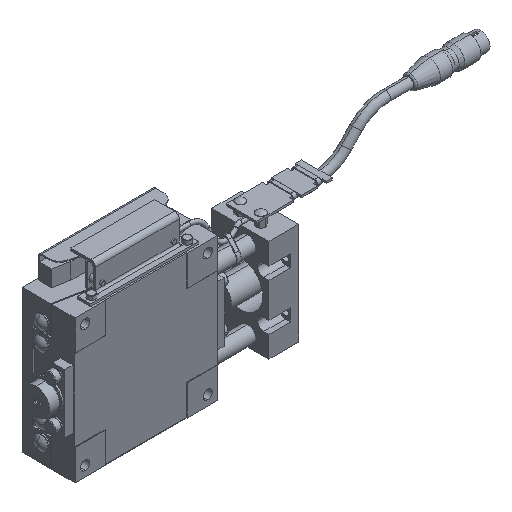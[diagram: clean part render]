
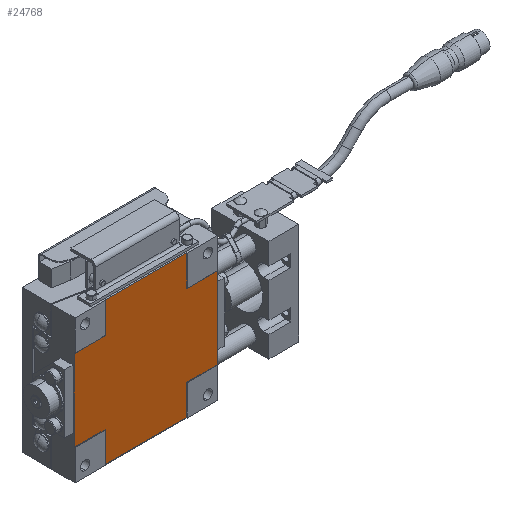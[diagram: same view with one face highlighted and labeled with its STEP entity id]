
A CAD part, isometric view. The second image highlights one B-rep face of the part: STEP entity #24768.
In plain terms, the highlighted planar face has unit normal (0, -1, 0).
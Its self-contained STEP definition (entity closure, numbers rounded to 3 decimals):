
#880 = CARTESIAN_POINT ( 'NONE',  ( 35., 0.3, 20. ) ) ;
#1693 = LINE ( 'NONE', #7282, #13415 ) ;
#1903 = DIRECTION ( 'NONE',  ( 1., 0., 0. ) ) ;
#2558 = CARTESIAN_POINT ( 'NONE',  ( -20., 0.3, 20. ) ) ;
#2755 = EDGE_CURVE ( 'NONE', #10446, #11681, #38761, .T. ) ;
#2860 = LINE ( 'NONE', #34392, #20739 ) ;
#2873 = VERTEX_POINT ( 'NONE', #37952 ) ;
#2939 = ORIENTED_EDGE ( 'NONE', *, *, #33166, .T. ) ;
#4046 = VERTEX_POINT ( 'NONE', #36468 ) ;
#4088 = ORIENTED_EDGE ( 'NONE', *, *, #24600, .T. ) ;
#4447 = CARTESIAN_POINT ( 'NONE',  ( -20., 0.3, 20. ) ) ;
#4804 = VECTOR ( 'NONE', #1903, 1000. ) ;
#6006 = ORIENTED_EDGE ( 'NONE', *, *, #7018, .T. ) ;
#6186 = LINE ( 'NONE', #12861, #33899 ) ;
#7018 = EDGE_CURVE ( 'NONE', #34935, #4046, #21432, .T. ) ;
#7282 = CARTESIAN_POINT ( 'NONE',  ( -35., 0.3, 20. ) ) ;
#8276 = EDGE_CURVE ( 'NONE', #16073, #34935, #9637, .T. ) ;
#8323 = CARTESIAN_POINT ( 'NONE',  ( 0., 0.3, 0. ) ) ;
#8641 = CARTESIAN_POINT ( 'NONE',  ( 20., 0.3, 20. ) ) ;
#9018 = EDGE_LOOP ( 'NONE', ( #2939, #38856, #6006, #13836, #36470, #35015, #35254, #15967, #14333, #38074, #4088, #37273 ) ) ;
#9335 = EDGE_CURVE ( 'NONE', #17989, #37971, #36790, .T. ) ;
#9637 = LINE ( 'NONE', #36717, #21823 ) ;
#9943 = EDGE_CURVE ( 'NONE', #4046, #20136, #32467, .T. ) ;
#10020 = DIRECTION ( 'NONE',  ( -1., 0., 0. ) ) ;
#10446 = VERTEX_POINT ( 'NONE', #38015 ) ;
#10640 = DIRECTION ( 'NONE',  ( 0., 0., -1. ) ) ;
#10866 = VECTOR ( 'NONE', #32486, 1000. ) ;
#11061 = CARTESIAN_POINT ( 'NONE',  ( -35., 0.3, 20. ) ) ;
#11633 = LINE ( 'NONE', #37300, #34669 ) ;
#11681 = VERTEX_POINT ( 'NONE', #2558 ) ;
#11835 = VECTOR ( 'NONE', #17188, 1000. ) ;
#12494 = VERTEX_POINT ( 'NONE', #38173 ) ;
#12790 = DIRECTION ( 'NONE',  ( 0., 0., 1. ) ) ;
#12861 = CARTESIAN_POINT ( 'NONE',  ( -20., 0.3, 35. ) ) ;
#13415 = VECTOR ( 'NONE', #28004, 1000. ) ;
#13836 = ORIENTED_EDGE ( 'NONE', *, *, #9943, .T. ) ;
#14333 = ORIENTED_EDGE ( 'NONE', *, *, #30205, .T. ) ;
#15967 = ORIENTED_EDGE ( 'NONE', *, *, #19028, .T. ) ;
#16073 = VERTEX_POINT ( 'NONE', #24379 ) ;
#16312 = DIRECTION ( 'NONE',  ( 1., 0., 0. ) ) ;
#17188 = DIRECTION ( 'NONE',  ( 0., 0., 1. ) ) ;
#17203 = CARTESIAN_POINT ( 'NONE',  ( -20., 0.3, -35. ) ) ;
#17396 = VERTEX_POINT ( 'NONE', #17203 ) ;
#17677 = VECTOR ( 'NONE', #21064, 1000. ) ;
#17989 = VERTEX_POINT ( 'NONE', #20674 ) ;
#18535 = VECTOR ( 'NONE', #25483, 1000. ) ;
#19028 = EDGE_CURVE ( 'NONE', #34793, #12494, #2860, .T. ) ;
#19321 = DIRECTION ( 'NONE',  ( 0., 0., -1. ) ) ;
#20136 = VERTEX_POINT ( 'NONE', #20486 ) ;
#20390 = PLANE ( 'NONE',  #31531 ) ;
#20486 = CARTESIAN_POINT ( 'NONE',  ( 20., 0.3, 35. ) ) ;
#20500 = VECTOR ( 'NONE', #35500, 1000. ) ;
#20674 = CARTESIAN_POINT ( 'NONE',  ( 20., 0.3, -35. ) ) ;
#20739 = VECTOR ( 'NONE', #10640, 1000. ) ;
#21064 = DIRECTION ( 'NONE',  ( 1., 0., 0. ) ) ;
#21432 = LINE ( 'NONE', #35878, #20500 ) ;
#21658 = EDGE_CURVE ( 'NONE', #2873, #17396, #11633, .T. ) ;
#21823 = VECTOR ( 'NONE', #12790, 1000. ) ;
#22897 = DIRECTION ( 'NONE',  ( 0., 1., 0. ) ) ;
#24379 = CARTESIAN_POINT ( 'NONE',  ( 35., 0.3, -20. ) ) ;
#24600 = EDGE_CURVE ( 'NONE', #17396, #17989, #25139, .T. ) ;
#24768 = ADVANCED_FACE ( 'NONE', ( #37849 ), #20390, .F. ) ;
#25139 = LINE ( 'NONE', #30895, #27453 ) ;
#25483 = DIRECTION ( 'NONE',  ( 0., 0., -1. ) ) ;
#25684 = CARTESIAN_POINT ( 'NONE',  ( 20., 0.3, -20. ) ) ;
#25918 = DIRECTION ( 'NONE',  ( -1., 0., 0. ) ) ;
#26277 = EDGE_CURVE ( 'NONE', #20136, #10446, #6186, .T. ) ;
#27453 = VECTOR ( 'NONE', #16312, 1000. ) ;
#28004 = DIRECTION ( 'NONE',  ( -1., 0., 0. ) ) ;
#28770 = LINE ( 'NONE', #25684, #4804 ) ;
#29397 = CARTESIAN_POINT ( 'NONE',  ( 20., 0.3, -35. ) ) ;
#29713 = CARTESIAN_POINT ( 'NONE',  ( -35., 0.3, -20. ) ) ;
#30205 = EDGE_CURVE ( 'NONE', #12494, #2873, #36948, .T. ) ;
#30667 = CARTESIAN_POINT ( 'NONE',  ( 20., 0.3, -20. ) ) ;
#30895 = CARTESIAN_POINT ( 'NONE',  ( -20., 0.3, -35. ) ) ;
#30954 = EDGE_CURVE ( 'NONE', #11681, #34793, #1693, .T. ) ;
#31531 = AXIS2_PLACEMENT_3D ( 'NONE', #8323, #22897, #25918 ) ;
#32467 = LINE ( 'NONE', #8641, #10866 ) ;
#32486 = DIRECTION ( 'NONE',  ( 0., 0., 1. ) ) ;
#33166 = EDGE_CURVE ( 'NONE', #37971, #16073, #28770, .T. ) ;
#33899 = VECTOR ( 'NONE', #10020, 1000. ) ;
#34392 = CARTESIAN_POINT ( 'NONE',  ( -35., 0.3, 20. ) ) ;
#34669 = VECTOR ( 'NONE', #19321, 1000. ) ;
#34793 = VERTEX_POINT ( 'NONE', #11061 ) ;
#34935 = VERTEX_POINT ( 'NONE', #880 ) ;
#35015 = ORIENTED_EDGE ( 'NONE', *, *, #2755, .T. ) ;
#35254 = ORIENTED_EDGE ( 'NONE', *, *, #30954, .T. ) ;
#35500 = DIRECTION ( 'NONE',  ( -1., 0., 0. ) ) ;
#35878 = CARTESIAN_POINT ( 'NONE',  ( 20., 0.3, 20. ) ) ;
#36468 = CARTESIAN_POINT ( 'NONE',  ( 20., 0.3, 20. ) ) ;
#36470 = ORIENTED_EDGE ( 'NONE', *, *, #26277, .T. ) ;
#36717 = CARTESIAN_POINT ( 'NONE',  ( 35., 0.3, 20. ) ) ;
#36790 = LINE ( 'NONE', #29397, #11835 ) ;
#36948 = LINE ( 'NONE', #29713, #17677 ) ;
#37273 = ORIENTED_EDGE ( 'NONE', *, *, #9335, .T. ) ;
#37300 = CARTESIAN_POINT ( 'NONE',  ( -20., 0.3, -35. ) ) ;
#37849 = FACE_OUTER_BOUND ( 'NONE', #9018, .T. ) ;
#37952 = CARTESIAN_POINT ( 'NONE',  ( -20., 0.3, -20. ) ) ;
#37971 = VERTEX_POINT ( 'NONE', #30667 ) ;
#38015 = CARTESIAN_POINT ( 'NONE',  ( -20., 0.3, 35. ) ) ;
#38074 = ORIENTED_EDGE ( 'NONE', *, *, #21658, .T. ) ;
#38173 = CARTESIAN_POINT ( 'NONE',  ( -35., 0.3, -20. ) ) ;
#38761 = LINE ( 'NONE', #4447, #18535 ) ;
#38856 = ORIENTED_EDGE ( 'NONE', *, *, #8276, .T. ) ;
